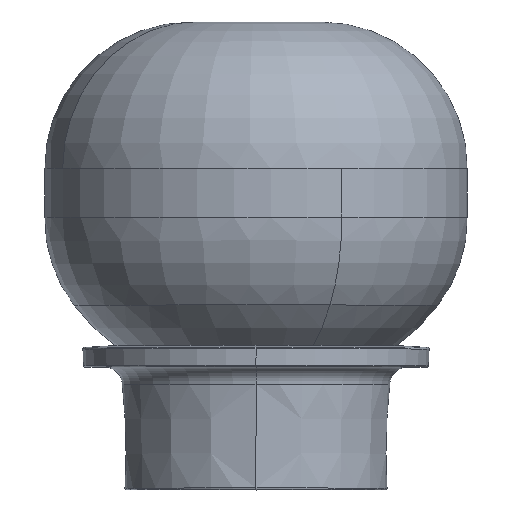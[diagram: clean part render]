
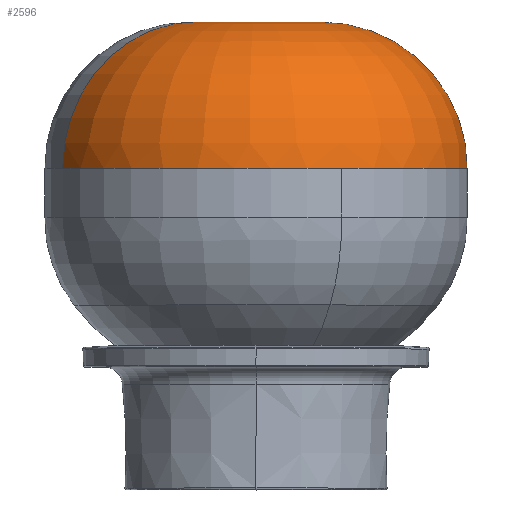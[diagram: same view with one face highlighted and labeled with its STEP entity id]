
A CAD part, top view. The second image highlights one B-rep face of the part: STEP entity #2596.
In plain terms, the highlighted toroidal (fillet/blend) face has major radius 20 mm and minor radius 45 mm.
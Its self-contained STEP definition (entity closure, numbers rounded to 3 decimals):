
#10 = DIRECTION ( 'NONE',  ( 0., 0., -1. ) ) ;
#69 = DIRECTION ( 'NONE',  ( 0., 0., -1. ) ) ;
#88 = DIRECTION ( 'NONE',  ( 0., 0., 1. ) ) ;
#228 = VERTEX_POINT ( 'NONE', #3746 ) ;
#253 = VERTEX_POINT ( 'NONE', #1506 ) ;
#387 = CARTESIAN_POINT ( 'NONE',  ( 0., 0., 99.134 ) ) ;
#554 = EDGE_CURVE ( 'NONE', #228, #884, #3431, .T. ) ;
#615 = ORIENTED_EDGE ( 'NONE', *, *, #912, .F. ) ;
#711 = CARTESIAN_POINT ( 'NONE',  ( 0., 20., 99.134 ) ) ;
#714 = DIRECTION ( 'NONE',  ( 0., 0., -1. ) ) ;
#808 = TOROIDAL_SURFACE ( 'NONE', #1352, 20., 45. ) ;
#884 = VERTEX_POINT ( 'NONE', #2658 ) ;
#912 = EDGE_CURVE ( 'NONE', #1225, #253, #2417, .T. ) ;
#973 = DIRECTION ( 'NONE',  ( 0., 1., 0. ) ) ;
#1030 = EDGE_CURVE ( 'NONE', #884, #1225, #3318, .T. ) ;
#1186 = ORIENTED_EDGE ( 'NONE', *, *, #1030, .F. ) ;
#1225 = VERTEX_POINT ( 'NONE', #1460 ) ;
#1352 = AXIS2_PLACEMENT_3D ( 'NONE', #3923, #10, #973 ) ;
#1359 = AXIS2_PLACEMENT_3D ( 'NONE', #2775, #3835, #3504 ) ;
#1374 = CARTESIAN_POINT ( 'NONE',  ( 0., -20., 99.134 ) ) ;
#1391 = DIRECTION ( 'NONE',  ( 0., 0., -1. ) ) ;
#1440 = DIRECTION ( 'NONE',  ( 1., 0., 0. ) ) ;
#1460 = CARTESIAN_POINT ( 'NONE',  ( 65., 0., 99.134 ) ) ;
#1498 = CIRCLE ( 'NONE', #1359, 20. ) ;
#1506 = CARTESIAN_POINT ( 'NONE',  ( 0., -65., 99.134 ) ) ;
#1684 = ORIENTED_EDGE ( 'NONE', *, *, #3157, .T. ) ;
#1691 = DIRECTION ( 'NONE',  ( 1., 0., 0. ) ) ;
#1694 = CIRCLE ( 'NONE', #3970, 45. ) ;
#1730 = ORIENTED_EDGE ( 'NONE', *, *, #554, .F. ) ;
#2289 = EDGE_CURVE ( 'NONE', #2353, #228, #1498, .T. ) ;
#2308 = EDGE_LOOP ( 'NONE', ( #2471, #1684, #615, #1186, #1730 ) ) ;
#2353 = VERTEX_POINT ( 'NONE', #3874 ) ;
#2417 = CIRCLE ( 'NONE', #3877, 65. ) ;
#2471 = ORIENTED_EDGE ( 'NONE', *, *, #2289, .F. ) ;
#2596 = ADVANCED_FACE ( 'NONE', ( #3303 ), #808, .T. ) ;
#2658 = CARTESIAN_POINT ( 'NONE',  ( 0., 65., 99.134 ) ) ;
#2684 = DIRECTION ( 'NONE',  ( 1., 0., 0. ) ) ;
#2720 = CARTESIAN_POINT ( 'NONE',  ( 0., 0., 99.134 ) ) ;
#2775 = CARTESIAN_POINT ( 'NONE',  ( 0., 0., 144.134 ) ) ;
#3010 = DIRECTION ( 'NONE',  ( -1., 0., 0. ) ) ;
#3157 = EDGE_CURVE ( 'NONE', #2353, #253, #1694, .T. ) ;
#3303 = FACE_OUTER_BOUND ( 'NONE', #2308, .T. ) ;
#3318 = CIRCLE ( 'NONE', #4018, 65. ) ;
#3431 = CIRCLE ( 'NONE', #4062, 45. ) ;
#3504 = DIRECTION ( 'NONE',  ( 0., 1., 0. ) ) ;
#3746 = CARTESIAN_POINT ( 'NONE',  ( 0., 20., 144.134 ) ) ;
#3835 = DIRECTION ( 'NONE',  ( 0., 0., 1. ) ) ;
#3874 = CARTESIAN_POINT ( 'NONE',  ( 0., -20., 144.134 ) ) ;
#3877 = AXIS2_PLACEMENT_3D ( 'NONE', #387, #69, #1691 ) ;
#3923 = CARTESIAN_POINT ( 'NONE',  ( 0., 0., 99.134 ) ) ;
#3970 = AXIS2_PLACEMENT_3D ( 'NONE', #1374, #2684, #714 ) ;
#4018 = AXIS2_PLACEMENT_3D ( 'NONE', #2720, #1391, #1440 ) ;
#4062 = AXIS2_PLACEMENT_3D ( 'NONE', #711, #3010, #88 ) ;
